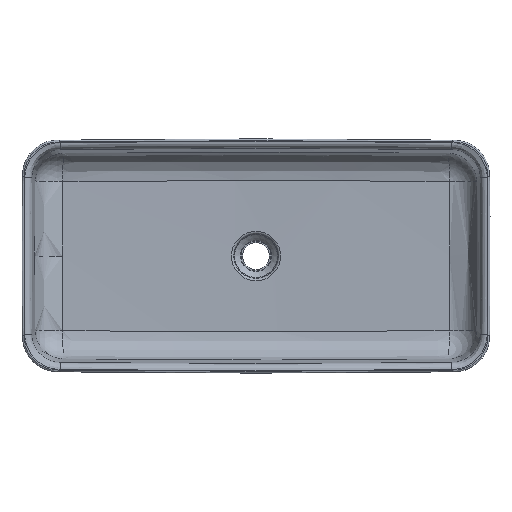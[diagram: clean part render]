
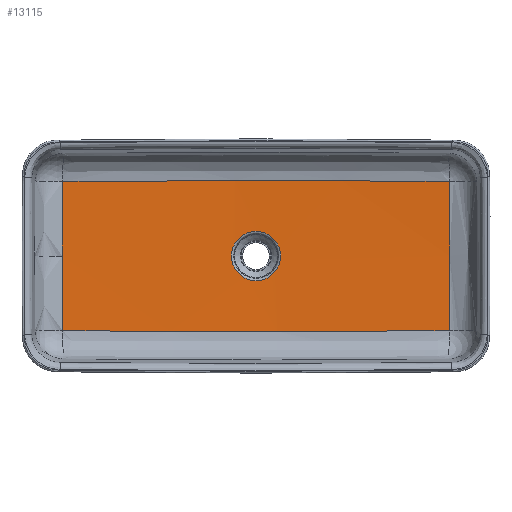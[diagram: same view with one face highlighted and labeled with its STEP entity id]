
A CAD part, top view. The second image highlights one B-rep face of the part: STEP entity #13115.
In plain terms, the highlighted spherical face has radius 10000 mm.
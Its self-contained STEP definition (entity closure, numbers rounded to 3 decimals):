
#98 = AXIS2_PLACEMENT_3D ( 'NONE', #1367, #9026, #1299 ) ;
#140 = VERTEX_POINT ( 'NONE', #10182 ) ;
#188 = EDGE_CURVE ( 'NONE', #10752, #5076, #15602, .T. ) ;
#361 = B_SPLINE_CURVE_WITH_KNOTS ( 'NONE', 3,
 ( #15267, #6135, #18270, #12166, #9287, #3154, #4687, #15193, #9228, #6200, #8218, #5064, #11161, #6573 ),
 .UNSPECIFIED., .F., .F.,
 ( 4, 2, 2, 2, 2, 2, 4 ),
 ( 0., 0.125, 0.25, 0.5, 0.75, 0.875, 1. ),
 .UNSPECIFIED. ) ;
#587 = CARTESIAN_POINT ( 'NONE',  ( 274.561, -127.818, -93.527 ) ) ;
#1152 = CARTESIAN_POINT ( 'NONE',  ( 330.402, 44.051, -92.606 ) ) ;
#1156 = FACE_OUTER_BOUND ( 'NONE', #11636, .T. ) ;
#1299 = DIRECTION ( 'NONE',  ( 1., 0., 0. ) ) ;
#1350 = CARTESIAN_POINT ( 'NONE',  ( 330.413, 0., -92.616 ) ) ;
#1367 = CARTESIAN_POINT ( 'NONE',  ( 0., 0., -97.988 ) ) ;
#1417 = CARTESIAN_POINT ( 'NONE',  ( -330.413, 0., -92.616 ) ) ;
#1482 = DIRECTION ( 'NONE',  ( 0., 1., 0. ) ) ;
#1642 = FACE_OUTER_BOUND ( 'NONE', #8173, .T. ) ;
#2229 = CARTESIAN_POINT ( 'NONE',  ( -329.453, -127.376, -91.836 ) ) ;
#2942 = CARTESIAN_POINT ( 'NONE',  ( 330.092, -84.922, -92.356 ) ) ;
#3154 = CARTESIAN_POINT ( 'NONE',  ( -109.84, 128.578, -96.797 ) ) ;
#3528 = B_SPLINE_CURVE_WITH_KNOTS ( 'NONE', 3,
 ( #12764, #3762, #8707, #10214 ),
 .UNSPECIFIED., .F., .F.,
 ( 4, 4 ),
 ( 0., 1. ),
 .UNSPECIFIED. ) ;
#3622 = CARTESIAN_POINT ( 'NONE',  ( 302.009, -127.62, -92.737 ) ) ;
#3749 = CARTESIAN_POINT ( 'NONE',  ( 109.839, -128.579, -96.797 ) ) ;
#3762 = CARTESIAN_POINT ( 'NONE',  ( -330.414, 42.461, -92.616 ) ) ;
#4397 = CARTESIAN_POINT ( 'NONE',  ( -330.412, -42.461, -92.616 ) ) ;
#4469 = DIRECTION ( 'NONE',  ( 1., 0., 0. ) ) ;
#4601 = CARTESIAN_POINT ( 'NONE',  ( 0., 0., 9901.924 ) ) ;
#4687 = CARTESIAN_POINT ( 'NONE',  ( -54.92, 128.671, -97.248 ) ) ;
#5064 = CARTESIAN_POINT ( 'NONE',  ( 274.566, 127.818, -93.526 ) ) ;
#5076 = VERTEX_POINT ( 'NONE', #19491 ) ;
#5778 = CARTESIAN_POINT ( 'NONE',  ( 329.458, 127.376, -91.836 ) ) ;
#5920 = CARTESIAN_POINT ( 'NONE',  ( 330.412, -42.461, -92.616 ) ) ;
#6081 = CARTESIAN_POINT ( 'NONE',  ( -329.453, -127.376, -91.836 ) ) ;
#6097 = VERTEX_POINT ( 'NONE', #13951 ) ;
#6135 = CARTESIAN_POINT ( 'NONE',  ( -302.014, 127.62, -92.737 ) ) ;
#6200 = CARTESIAN_POINT ( 'NONE',  ( 192.209, 128.275, -95.443 ) ) ;
#6304 = VERTEX_POINT ( 'NONE', #11515 ) ;
#6573 = CARTESIAN_POINT ( 'NONE',  ( 329.458, 127.376, -91.836 ) ) ;
#6589 = CARTESIAN_POINT ( 'NONE',  ( -109.839, -128.579, -96.797 ) ) ;
#6649 = CARTESIAN_POINT ( 'NONE',  ( -274.561, -127.818, -93.527 ) ) ;
#6710 = CARTESIAN_POINT ( 'NONE',  ( -54.919, -128.671, -97.248 ) ) ;
#7188 = CARTESIAN_POINT ( 'NONE',  ( 329.458, 127.376, -91.836 ) ) ;
#7826 = B_SPLINE_CURVE_WITH_KNOTS ( 'NONE', 3,
 ( #14137, #3622, #587, #12498, #12559, #3749, #9619, #6710, #6589, #11242, #14262, #6649, #10991, #2229 ),
 .UNSPECIFIED., .F., .F.,
 ( 4, 2, 2, 2, 2, 2, 4 ),
 ( 0., 0.125, 0.25, 0.5, 0.75, 0.875, 1. ),
 .UNSPECIFIED. ) ;
#8173 = EDGE_LOOP ( 'NONE', ( #8619, #18034, #19291, #9558, #8847, #16145 ) ) ;
#8218 = CARTESIAN_POINT ( 'NONE',  ( 219.663, 128.146, -94.88 ) ) ;
#8515 =( BOUNDED_CURVE ( )  B_SPLINE_CURVE ( 3, ( #1350, #5920, #2942, #9077 ),
 .UNSPECIFIED., .F., .F. ) 
 B_SPLINE_CURVE_WITH_KNOTS ( ( 4, 4 ),
 ( 0., 1. ),
 .UNSPECIFIED. ) 
 CURVE ( )  GEOMETRIC_REPRESENTATION_ITEM ( )  RATIONAL_B_SPLINE_CURVE ( ( 1., 1., 1., 1. ) ) 
 REPRESENTATION_ITEM ( '' )  );
#8619 = ORIENTED_EDGE ( 'NONE', *, *, #10660, .F. ) ;
#8707 = CARTESIAN_POINT ( 'NONE',  ( -330.096, 84.922, -92.356 ) ) ;
#8737 = CARTESIAN_POINT ( 'NONE',  ( 330.413, 0., -92.616 ) ) ;
#8802 = CARTESIAN_POINT ( 'NONE',  ( 330.072, 86.512, -92.336 ) ) ;
#8847 = ORIENTED_EDGE ( 'NONE', *, *, #188, .F. ) ;
#8866 = CARTESIAN_POINT ( 'NONE',  ( 330.413, 1.59, -92.616 ) ) ;
#9005 = CARTESIAN_POINT ( 'NONE',  ( -330.413, 0., -92.616 ) ) ;
#9026 = DIRECTION ( 'NONE',  ( 0., 0., -1. ) ) ;
#9077 = CARTESIAN_POINT ( 'NONE',  ( 329.453, -127.376, -91.836 ) ) ;
#9177 = CIRCLE ( 'NONE', #98, 42.06 ) ;
#9228 = CARTESIAN_POINT ( 'NONE',  ( 109.84, 128.579, -96.797 ) ) ;
#9287 = CARTESIAN_POINT ( 'NONE',  ( -192.209, 128.275, -95.443 ) ) ;
#9558 = ORIENTED_EDGE ( 'NONE', *, *, #15926, .F. ) ;
#9619 = CARTESIAN_POINT ( 'NONE',  ( 54.919, -128.671, -97.248 ) ) ;
#9823 = VERTEX_POINT ( 'NONE', #6081 ) ;
#10182 = CARTESIAN_POINT ( 'NONE',  ( 329.453, -127.376, -91.836 ) ) ;
#10186 = CARTESIAN_POINT ( 'NONE',  ( -330.092, -84.923, -92.356 ) ) ;
#10214 = CARTESIAN_POINT ( 'NONE',  ( -329.458, 127.376, -91.836 ) ) ;
#10595 = SPHERICAL_SURFACE ( 'NONE', #16517, 10000. ) ;
#10660 = EDGE_CURVE ( 'NONE', #16123, #6304, #3528, .T. ) ;
#10752 = VERTEX_POINT ( 'NONE', #7188 ) ;
#10991 = CARTESIAN_POINT ( 'NONE',  ( -302.009, -127.62, -92.737 ) ) ;
#11161 = CARTESIAN_POINT ( 'NONE',  ( 302.014, 127.62, -92.737 ) ) ;
#11242 = CARTESIAN_POINT ( 'NONE',  ( -192.206, -128.275, -95.443 ) ) ;
#11515 = CARTESIAN_POINT ( 'NONE',  ( -329.458, 127.376, -91.836 ) ) ;
#11636 = EDGE_LOOP ( 'NONE', ( #16617 ) ) ;
#12166 = CARTESIAN_POINT ( 'NONE',  ( -219.663, 128.146, -94.88 ) ) ;
#12498 = CARTESIAN_POINT ( 'NONE',  ( 219.66, -128.146, -94.88 ) ) ;
#12559 = CARTESIAN_POINT ( 'NONE',  ( 192.206, -128.275, -95.443 ) ) ;
#12592 = B_SPLINE_CURVE_WITH_KNOTS ( 'NONE', 3,
 ( #14577, #10186, #4397, #9005 ),
 .UNSPECIFIED., .F., .F.,
 ( 4, 4 ),
 ( 0., 1. ),
 .UNSPECIFIED. ) ;
#12764 = CARTESIAN_POINT ( 'NONE',  ( -330.413, 0., -92.616 ) ) ;
#12909 = EDGE_CURVE ( 'NONE', #6304, #10752, #361, .T. ) ;
#13115 = ADVANCED_FACE ( 'NONE', ( #1156, #1642 ), #10595, .F. ) ;
#13951 = CARTESIAN_POINT ( 'NONE',  ( 42.06, 0., -97.988 ) ) ;
#14137 = CARTESIAN_POINT ( 'NONE',  ( 329.453, -127.376, -91.836 ) ) ;
#14262 = CARTESIAN_POINT ( 'NONE',  ( -219.66, -128.146, -94.88 ) ) ;
#14406 = EDGE_CURVE ( 'NONE', #9823, #16123, #12592, .T. ) ;
#14577 = CARTESIAN_POINT ( 'NONE',  ( -329.453, -127.376, -91.836 ) ) ;
#15193 = CARTESIAN_POINT ( 'NONE',  ( 54.92, 128.671, -97.248 ) ) ;
#15267 = CARTESIAN_POINT ( 'NONE',  ( -329.458, 127.376, -91.836 ) ) ;
#15602 = B_SPLINE_CURVE_WITH_KNOTS ( 'NONE', 3,
 ( #5778, #8802, #1152, #8866, #8737 ),
 .UNSPECIFIED., .F., .F.,
 ( 4, 1, 4 ),
 ( 0., 0.963, 1. ),
 .UNSPECIFIED. ) ;
#15926 = EDGE_CURVE ( 'NONE', #5076, #140, #8515, .T. ) ;
#16123 = VERTEX_POINT ( 'NONE', #1417 ) ;
#16145 = ORIENTED_EDGE ( 'NONE', *, *, #12909, .F. ) ;
#16517 = AXIS2_PLACEMENT_3D ( 'NONE', #4601, #1482, #4469 ) ;
#16617 = ORIENTED_EDGE ( 'NONE', *, *, #18471, .T. ) ;
#17202 = EDGE_CURVE ( 'NONE', #140, #9823, #7826, .T. ) ;
#18034 = ORIENTED_EDGE ( 'NONE', *, *, #14406, .F. ) ;
#18270 = CARTESIAN_POINT ( 'NONE',  ( -274.566, 127.818, -93.526 ) ) ;
#18471 = EDGE_CURVE ( 'NONE', #6097, #6097, #9177, .T. ) ;
#19291 = ORIENTED_EDGE ( 'NONE', *, *, #17202, .F. ) ;
#19491 = CARTESIAN_POINT ( 'NONE',  ( 330.413, 0., -92.616 ) ) ;
